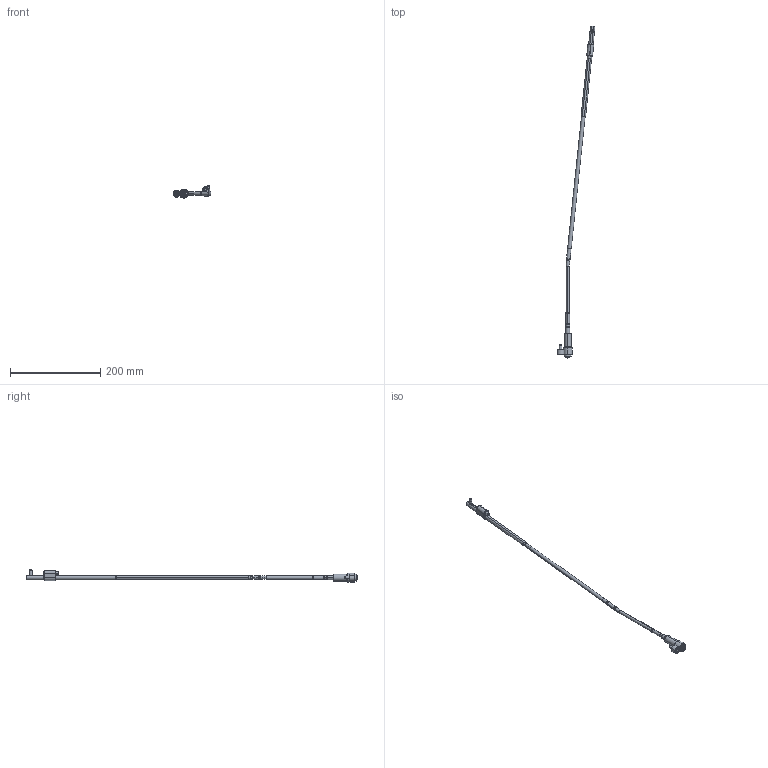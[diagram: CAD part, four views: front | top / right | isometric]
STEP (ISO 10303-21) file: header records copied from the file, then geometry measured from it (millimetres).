
FILE_DESCRIPTION (( 'STEP AP214' ), '1' );
FILE_NAME ('WL080100L-INJ 6°.STEP', '2023-01-26T14:55:40', ( '' ), ( '' ), 'SwSTEP 2.0', 'SolidWorks 2021', '' );
FILE_SCHEMA (( 'AUTOMOTIVE_DESIGN' ));
Length unit declared in the file: millimetre
Products named in the file (17): 9DR2206-TOR; Web-WL08-A3; WL080100-B_WL0800FF; 3IMAN4X2-150_con sello; 1DIN912616_DIN 912 M6 x 16 --- 16C; Web-WL08XX-A7_OFF-WL080100-6; Web-WL08-F00.SLDPRT; Web-WL08-A1; WL080100-C; Web-WL08-A2; WL080100-B1_WL0800FF-1; WL080100-D; Web-WL08-F01; WL080100L-INJ 6°; WL080100-E; 1DIN912545_DIN 912 M5 x 50 --- 50C; Web-WP08-1
Assembly tree (16 placements, depth 3):
  WL080100L-INJ 6°
    Web-WP08-1
    Web-WL08XX-A7_OFF-WL080100-6
    Web-WL08-A3
    Web-WL08-A2
    Web-WL08-A1
    WL080100-D
    WL080100-C
    WL080100-B_WL0800FF
      WL080100-B1_WL0800FF-1
      3IMAN4X2-150_con sello
    WL080100-E
    9DR2206-TOR
    Web-WL08-F00.SLDPRT
      Web-WL08-F01
      1DIN912545_DIN 912 M5 x 50 --- 50C
      1DIN912616_DIN 912 M6 x 16 --- 16C
Bounding box: 84.07 x 734.61 x 26.9 mm (x, y, z)
Volume: 57296.4 mm3; surface area: 33629.8 mm2
Topology: 15 solids, 15 shells, 424 faces, 888 edges, 516 vertices
Faces by surface type: plane 132, cylinder 128, cone 116, torus 48
Entity records: 13492 total; most frequent: DIRECTION 2218, CARTESIAN_POINT 2045, ORIENTED_EDGE 1756, AXIS2_PLACEMENT_3D 921, EDGE_CURVE 878, VERTEX_POINT 516, CIRCLE 476, EDGE_LOOP 468
